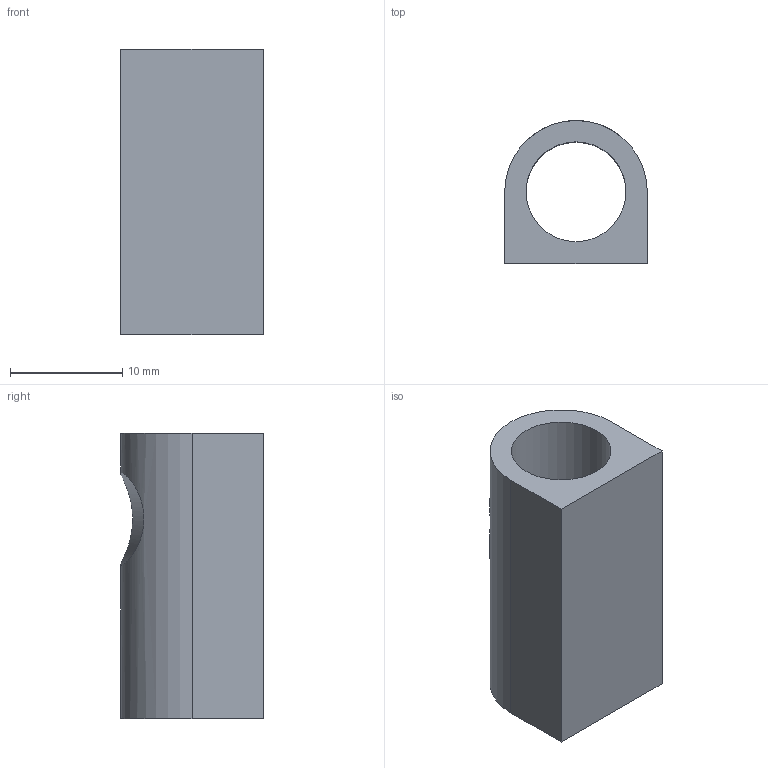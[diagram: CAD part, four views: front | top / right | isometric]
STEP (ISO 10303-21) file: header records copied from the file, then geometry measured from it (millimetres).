
FILE_DESCRIPTION(/* description */ (''),/* implementation_level */ '2;1');
FILE_NAME(/* name */ 'C:\Users\jonat\Documents\PCDMIS Examples\PCDMIS Example_01.stp',/* time_stamp */ '2023-01-18T09:44:50-08:00',/* author */ ('jonat'),/* organization */ (''),/* preprocessor_version */ 'ST-DEVELOPER v18',/* originating_system */ 'Autodesk Inventor 2020',/* authorisation */ '');
FILE_SCHEMA (('CONFIG_CONTROL_DESIGN'));
Length unit declared in the file: inch
Products named in the file (1): PCDMIS Example_01
Bounding box: 12.7 x 12.7 x 25.4 mm (x, y, z)
Volume: 2037 mm3; surface area: 2025.1 mm2
Topology: 1 solids, 1 shells, 8 faces, 16 edges, 11 vertices
Faces by surface type: plane 5, cylinder 3
Full cylindrical faces by diameter (mm): 8.89 x1
Entity records: 332 total; most frequent: CARTESIAN_POINT 111, DIRECTION 37, ORIENTED_EDGE 32, EDGE_CURVE 16, AXIS2_PLACEMENT_3D 13, EDGE_LOOP 11, LINE 11, VECTOR 11
